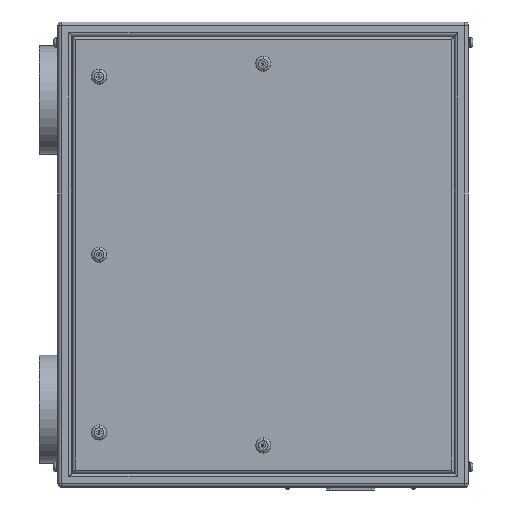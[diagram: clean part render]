
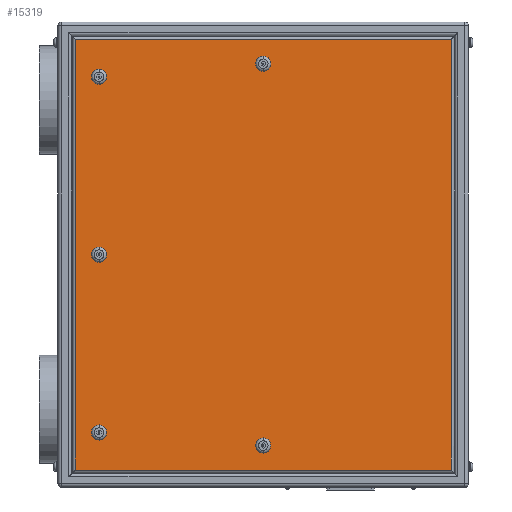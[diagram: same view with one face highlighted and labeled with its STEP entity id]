
A CAD part, left-side view. The second image highlights one B-rep face of the part: STEP entity #15319.
In plain terms, the highlighted planar face has unit normal (-1, 0, 0).
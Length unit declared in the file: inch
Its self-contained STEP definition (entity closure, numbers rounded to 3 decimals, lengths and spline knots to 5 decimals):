
#54 = ORIENTED_EDGE ( 'NONE', *, *, #6488, .F. ) ;
#163 = DIRECTION ( 'NONE',  ( 1., 0., 0. ) ) ;
#219 = CARTESIAN_POINT ( 'NONE',  ( -8.5, 0., -14.5 ) ) ;
#434 = DIRECTION ( 'NONE',  ( 1., 0., 0. ) ) ;
#530 = ORIENTED_EDGE ( 'NONE', *, *, #5843, .T. ) ;
#548 = AXIS2_PLACEMENT_3D ( 'NONE', #959, #11147, #7363 ) ;
#656 = CARTESIAN_POINT ( 'NONE',  ( -8.5, 13.74, 15.74 ) ) ;
#860 = ORIENTED_EDGE ( 'NONE', *, *, #1649, .T. ) ;
#959 = CARTESIAN_POINT ( 'NONE',  ( -8.5, 15., -17. ) ) ;
#1175 = CARTESIAN_POINT ( 'NONE',  ( -8.5, 0., -13.4 ) ) ;
#1327 = CIRCLE ( 'NONE', #8701, 0.55 ) ;
#1457 = CARTESIAN_POINT ( 'NONE',  ( -8.5, 12., 0.55 ) ) ;
#1459 = CARTESIAN_POINT ( 'NONE',  ( -8.5, 12., 13. ) ) ;
#1649 = EDGE_CURVE ( 'NONE', #15178, #15432, #8135, .T. ) ;
#1738 = CARTESIAN_POINT ( 'NONE',  ( -8.5, -13.74, 15.74 ) ) ;
#1980 = ORIENTED_EDGE ( 'NONE', *, *, #3338, .T. ) ;
#2018 = VERTEX_POINT ( 'NONE', #12414 ) ;
#2131 = PLANE ( 'NONE',  #548 ) ;
#2191 = VERTEX_POINT ( 'NONE', #2579 ) ;
#2269 = DIRECTION ( 'NONE',  ( 0., 0., -1. ) ) ;
#2280 = LINE ( 'NONE', #12463, #7951 ) ;
#2282 = CARTESIAN_POINT ( 'NONE',  ( -8.5, 12., -0.55 ) ) ;
#2487 = CIRCLE ( 'NONE', #10712, 0.55 ) ;
#2563 = VERTEX_POINT ( 'NONE', #219 ) ;
#2579 = CARTESIAN_POINT ( 'NONE',  ( -8.5, 0., 13.4 ) ) ;
#2871 = CARTESIAN_POINT ( 'NONE',  ( -8.5, 12., 0. ) ) ;
#2963 = EDGE_CURVE ( 'NONE', #2018, #6208, #5020, .T. ) ;
#3338 = EDGE_CURVE ( 'NONE', #8976, #2563, #10497, .T. ) ;
#3461 = CARTESIAN_POINT ( 'NONE',  ( -8.5, 12., -12.45 ) ) ;
#3594 = ORIENTED_EDGE ( 'NONE', *, *, #2963, .T. ) ;
#3764 = EDGE_CURVE ( 'NONE', #2563, #8976, #16658, .T. ) ;
#3788 = EDGE_LOOP ( 'NONE', ( #9243, #530, #860, #12224 ) ) ;
#4003 = DIRECTION ( 'NONE',  ( 0., 0., -1. ) ) ;
#4042 = EDGE_CURVE ( 'NONE', #15432, #15493, #2280, .T. ) ;
#4125 = CARTESIAN_POINT ( 'NONE',  ( -8.5, 0., 13.95 ) ) ;
#4166 = EDGE_CURVE ( 'NONE', #16260, #2191, #8245, .T. ) ;
#4838 = LINE ( 'NONE', #8691, #14209 ) ;
#4879 = DIRECTION ( 'NONE',  ( 0., 0., -1. ) ) ;
#5010 = CIRCLE ( 'NONE', #16441, 0.55 ) ;
#5020 = CIRCLE ( 'NONE', #14589, 0.55 ) ;
#5179 = CIRCLE ( 'NONE', #14747, 0.55 ) ;
#5401 = DIRECTION ( 'NONE',  ( 0., 0., -1. ) ) ;
#5537 = CARTESIAN_POINT ( 'NONE',  ( -8.5, 15., -15.74 ) ) ;
#5577 = CARTESIAN_POINT ( 'NONE',  ( -8.5, 12., -13. ) ) ;
#5646 = CARTESIAN_POINT ( 'NONE',  ( -8.5, 15., 15.74 ) ) ;
#5759 = CARTESIAN_POINT ( 'NONE',  ( -8.5, 0., -13.95 ) ) ;
#5843 = EDGE_CURVE ( 'NONE', #13741, #15178, #4838, .T. ) ;
#5926 = FACE_OUTER_BOUND ( 'NONE', #3788, .T. ) ;
#5988 = CARTESIAN_POINT ( 'NONE',  ( -8.5, 12., -13.55 ) ) ;
#6049 = CARTESIAN_POINT ( 'NONE',  ( -8.5, 13.74, -15.74 ) ) ;
#6073 = CARTESIAN_POINT ( 'NONE',  ( -8.5, 0., 14.5 ) ) ;
#6208 = VERTEX_POINT ( 'NONE', #7721 ) ;
#6232 = CARTESIAN_POINT ( 'NONE',  ( -8.5, 0., 13.95 ) ) ;
#6271 = EDGE_LOOP ( 'NONE', ( #9477, #54 ) ) ;
#6488 = EDGE_CURVE ( 'NONE', #16534, #14413, #2487, .T. ) ;
#6657 = VERTEX_POINT ( 'NONE', #1457 ) ;
#6990 = ORIENTED_EDGE ( 'NONE', *, *, #4166, .T. ) ;
#7227 = DIRECTION ( 'NONE',  ( 0., 0., 1. ) ) ;
#7363 = DIRECTION ( 'NONE',  ( 0., 0., -1. ) ) ;
#7461 = FACE_BOUND ( 'NONE', #11119, .T. ) ;
#7547 = FACE_BOUND ( 'NONE', #14254, .T. ) ;
#7610 = DIRECTION ( 'NONE',  ( 0., 0., -1. ) ) ;
#7616 = CARTESIAN_POINT ( 'NONE',  ( -8.5, 12., 13. ) ) ;
#7721 = CARTESIAN_POINT ( 'NONE',  ( -8.5, 12., 12.45 ) ) ;
#7794 = EDGE_CURVE ( 'NONE', #6208, #2018, #13947, .T. ) ;
#7951 = VECTOR ( 'NONE', #4879, 39.37008 ) ;
#8058 = AXIS2_PLACEMENT_3D ( 'NONE', #4125, #434, #14738 ) ;
#8135 = LINE ( 'NONE', #5646, #8657 ) ;
#8245 = CIRCLE ( 'NONE', #15039, 0.55 ) ;
#8612 = EDGE_LOOP ( 'NONE', ( #12222, #6990 ) ) ;
#8657 = VECTOR ( 'NONE', #10942, 39.37008 ) ;
#8691 = CARTESIAN_POINT ( 'NONE',  ( -8.5, -13.74, -17. ) ) ;
#8701 = AXIS2_PLACEMENT_3D ( 'NONE', #5577, #15978, #15817 ) ;
#8778 = AXIS2_PLACEMENT_3D ( 'NONE', #1459, #163, #5401 ) ;
#8875 = EDGE_CURVE ( 'NONE', #6657, #13312, #5010, .T. ) ;
#8976 = VERTEX_POINT ( 'NONE', #1175 ) ;
#8985 = EDGE_CURVE ( 'NONE', #15493, #13741, #16888, .T. ) ;
#9153 = DIRECTION ( 'NONE',  ( 0., -1., 0. ) ) ;
#9243 = ORIENTED_EDGE ( 'NONE', *, *, #8985, .T. ) ;
#9270 = ORIENTED_EDGE ( 'NONE', *, *, #8875, .T. ) ;
#9309 = ORIENTED_EDGE ( 'NONE', *, *, #3764, .T. ) ;
#9338 = EDGE_CURVE ( 'NONE', #2191, #16260, #13759, .T. ) ;
#9477 = ORIENTED_EDGE ( 'NONE', *, *, #13934, .F. ) ;
#10376 = CARTESIAN_POINT ( 'NONE',  ( -8.5, 12., -13. ) ) ;
#10459 = DIRECTION ( 'NONE',  ( 1., 0., 0. ) ) ;
#10497 = CIRCLE ( 'NONE', #12120, 0.55 ) ;
#10712 = AXIS2_PLACEMENT_3D ( 'NONE', #10376, #16914, #7610 ) ;
#10942 = DIRECTION ( 'NONE',  ( 0., 1., 0. ) ) ;
#11119 = EDGE_LOOP ( 'NONE', ( #13552, #9270 ) ) ;
#11147 = DIRECTION ( 'NONE',  ( 1., 0., 0. ) ) ;
#11317 = FACE_BOUND ( 'NONE', #8612, .T. ) ;
#11600 = DIRECTION ( 'NONE',  ( 1., 0., 0. ) ) ;
#11708 = FACE_BOUND ( 'NONE', #6271, .T. ) ;
#11716 = DIRECTION ( 'NONE',  ( 0., 0., -1. ) ) ;
#11862 = DIRECTION ( 'NONE',  ( 0., 0., -1. ) ) ;
#12081 = DIRECTION ( 'NONE',  ( 1., 0., 0. ) ) ;
#12120 = AXIS2_PLACEMENT_3D ( 'NONE', #13543, #16176, #15936 ) ;
#12222 = ORIENTED_EDGE ( 'NONE', *, *, #9338, .T. ) ;
#12224 = ORIENTED_EDGE ( 'NONE', *, *, #4042, .T. ) ;
#12411 = FACE_BOUND ( 'NONE', #13421, .T. ) ;
#12414 = CARTESIAN_POINT ( 'NONE',  ( -8.5, 12., 13.55 ) ) ;
#12463 = CARTESIAN_POINT ( 'NONE',  ( -8.5, 13.74, -17. ) ) ;
#12490 = CARTESIAN_POINT ( 'NONE',  ( -8.5, -13.74, -15.74 ) ) ;
#12965 = CARTESIAN_POINT ( 'NONE',  ( -8.5, 12., 0. ) ) ;
#13280 = DIRECTION ( 'NONE',  ( 0., 0., 1. ) ) ;
#13303 = DIRECTION ( 'NONE',  ( 1., 0., 0. ) ) ;
#13312 = VERTEX_POINT ( 'NONE', #2282 ) ;
#13421 = EDGE_LOOP ( 'NONE', ( #14488, #3594 ) ) ;
#13543 = CARTESIAN_POINT ( 'NONE',  ( -8.5, 0., -13.95 ) ) ;
#13552 = ORIENTED_EDGE ( 'NONE', *, *, #14920, .T. ) ;
#13741 = VERTEX_POINT ( 'NONE', #12490 ) ;
#13759 = CIRCLE ( 'NONE', #8058, 0.55 ) ;
#13934 = EDGE_CURVE ( 'NONE', #14413, #16534, #1327, .T. ) ;
#13947 = CIRCLE ( 'NONE', #8778, 0.55 ) ;
#14209 = VECTOR ( 'NONE', #7227, 39.37008 ) ;
#14254 = EDGE_LOOP ( 'NONE', ( #9309, #1980 ) ) ;
#14267 = DIRECTION ( 'NONE',  ( 1., 0., 0. ) ) ;
#14413 = VERTEX_POINT ( 'NONE', #5988 ) ;
#14488 = ORIENTED_EDGE ( 'NONE', *, *, #7794, .T. ) ;
#14589 = AXIS2_PLACEMENT_3D ( 'NONE', #7616, #10459, #11716 ) ;
#14593 = VECTOR ( 'NONE', #9153, 39.37008 ) ;
#14738 = DIRECTION ( 'NONE',  ( 0., 0., -1. ) ) ;
#14747 = AXIS2_PLACEMENT_3D ( 'NONE', #2871, #13303, #11862 ) ;
#14920 = EDGE_CURVE ( 'NONE', #13312, #6657, #5179, .T. ) ;
#15039 = AXIS2_PLACEMENT_3D ( 'NONE', #6232, #14267, #4003 ) ;
#15178 = VERTEX_POINT ( 'NONE', #1738 ) ;
#15319 = ADVANCED_FACE ( 'NONE', ( #7547, #11317, #7461, #11708, #12411, #5926 ), #2131, .F. ) ;
#15432 = VERTEX_POINT ( 'NONE', #656 ) ;
#15493 = VERTEX_POINT ( 'NONE', #6049 ) ;
#15817 = DIRECTION ( 'NONE',  ( 0., 0., -1. ) ) ;
#15936 = DIRECTION ( 'NONE',  ( 0., 0., 1. ) ) ;
#15978 = DIRECTION ( 'NONE',  ( -1., 0., 0. ) ) ;
#16176 = DIRECTION ( 'NONE',  ( 1., 0., 0. ) ) ;
#16260 = VERTEX_POINT ( 'NONE', #6073 ) ;
#16383 = AXIS2_PLACEMENT_3D ( 'NONE', #5759, #12081, #13280 ) ;
#16441 = AXIS2_PLACEMENT_3D ( 'NONE', #12965, #11600, #2269 ) ;
#16534 = VERTEX_POINT ( 'NONE', #3461 ) ;
#16658 = CIRCLE ( 'NONE', #16383, 0.55 ) ;
#16888 = LINE ( 'NONE', #5537, #14593 ) ;
#16914 = DIRECTION ( 'NONE',  ( -1., 0., 0. ) ) ;
